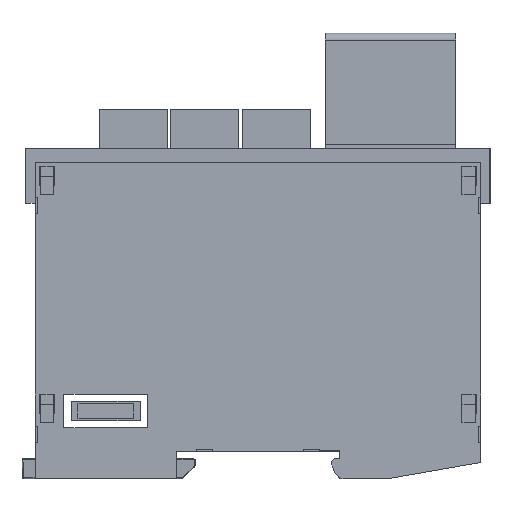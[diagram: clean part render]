
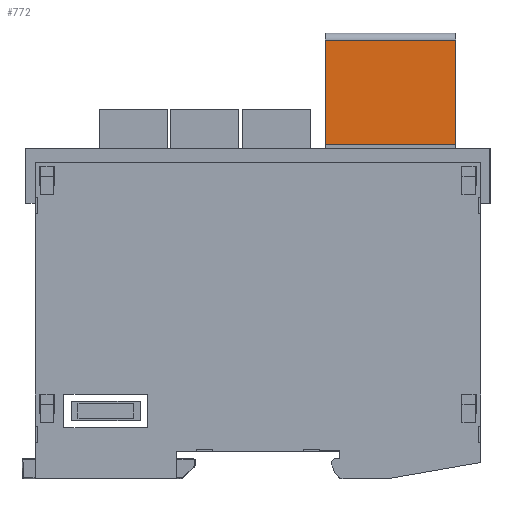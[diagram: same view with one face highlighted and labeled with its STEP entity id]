
A CAD part, left-side view. The second image highlights one B-rep face of the part: STEP entity #772.
In plain terms, the highlighted planar face has unit normal (-1, 0, 0) as drawn and (0, -1, 0) by its records, which use the part's own axes.
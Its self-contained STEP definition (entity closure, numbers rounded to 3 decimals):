
#177 = VERTEX_POINT ( 'NONE', #21410 ) ;
#278 = LINE ( 'NONE', #14103, #16218 ) ;
#579 = FACE_OUTER_BOUND ( 'NONE', #19745, .T. ) ;
#772 = ADVANCED_FACE ( 'NONE', ( #579 ), #25015, .F. ) ;
#2184 = VERTEX_POINT ( 'NONE', #12766 ) ;
#6129 = LINE ( 'NONE', #25723, #28440 ) ;
#7527 = EDGE_CURVE ( 'NONE', #12034, #2184, #17421, .T. ) ;
#8291 = DIRECTION ( 'NONE',  ( 0., 1., 0. ) ) ;
#9323 = CARTESIAN_POINT ( 'NONE',  ( 14.15, -6.3, 8.7 ) ) ;
#10204 = DIRECTION ( 'NONE',  ( -1., 0., 0. ) ) ;
#11521 = DIRECTION ( 'NONE',  ( 0., 0., -1. ) ) ;
#12034 = VERTEX_POINT ( 'NONE', #22374 ) ;
#12766 = CARTESIAN_POINT ( 'NONE',  ( 14.15, -6.3, 0. ) ) ;
#13970 = ORIENTED_EDGE ( 'NONE', *, *, #7527, .F. ) ;
#14103 = CARTESIAN_POINT ( 'NONE',  ( -14.15, -6.3, 0. ) ) ;
#15334 = AXIS2_PLACEMENT_3D ( 'NONE', #22339, #8291, #19276 ) ;
#15806 = ORIENTED_EDGE ( 'NONE', *, *, #33080, .T. ) ;
#16218 = VECTOR ( 'NONE', #16814, 1000. ) ;
#16814 = DIRECTION ( 'NONE',  ( 1., 0., 0. ) ) ;
#17421 = LINE ( 'NONE', #9323, #30890 ) ;
#18420 = VERTEX_POINT ( 'NONE', #24617 ) ;
#19276 = DIRECTION ( 'NONE',  ( 0., 0., 1. ) ) ;
#19745 = EDGE_LOOP ( 'NONE', ( #13970, #21827, #20184, #15806 ) ) ;
#20184 = ORIENTED_EDGE ( 'NONE', *, *, #29050, .T. ) ;
#21410 = CARTESIAN_POINT ( 'NONE',  ( -14.15, -6.3, 22.65 ) ) ;
#21827 = ORIENTED_EDGE ( 'NONE', *, *, #26221, .T. ) ;
#22339 = CARTESIAN_POINT ( 'NONE',  ( -14.15, -6.3, 8.7 ) ) ;
#22374 = CARTESIAN_POINT ( 'NONE',  ( 14.15, -6.3, 22.65 ) ) ;
#24059 = CARTESIAN_POINT ( 'NONE',  ( -14.15, -6.3, 22.65 ) ) ;
#24617 = CARTESIAN_POINT ( 'NONE',  ( -14.15, -6.3, 0. ) ) ;
#25015 = PLANE ( 'NONE',  #15334 ) ;
#25723 = CARTESIAN_POINT ( 'NONE',  ( -14.15, -6.3, 8.7 ) ) ;
#26221 = EDGE_CURVE ( 'NONE', #12034, #177, #34336, .T. ) ;
#28440 = VECTOR ( 'NONE', #11521, 1000. ) ;
#29050 = EDGE_CURVE ( 'NONE', #177, #18420, #6129, .T. ) ;
#29408 = VECTOR ( 'NONE', #10204, 1000. ) ;
#30890 = VECTOR ( 'NONE', #34145, 1000. ) ;
#33080 = EDGE_CURVE ( 'NONE', #18420, #2184, #278, .T. ) ;
#34145 = DIRECTION ( 'NONE',  ( 0., 0., -1. ) ) ;
#34336 = LINE ( 'NONE', #24059, #29408 ) ;
